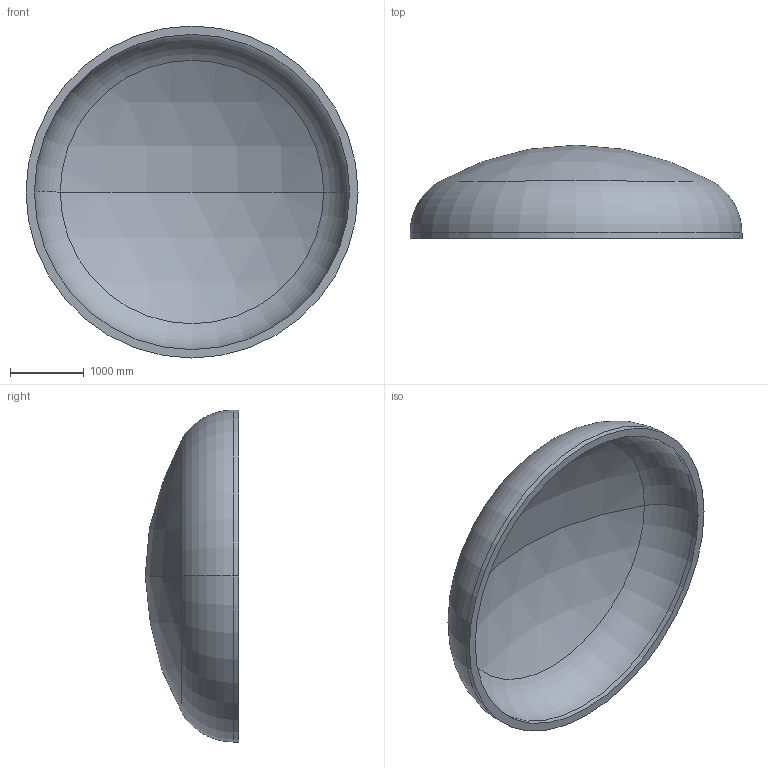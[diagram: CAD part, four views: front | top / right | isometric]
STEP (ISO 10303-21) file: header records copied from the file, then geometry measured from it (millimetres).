
FILE_DESCRIPTION (( 'STEP AP203' ), '1' );
FILE_NAME ('DIN 28013 Korbbogenform_-_Boden DIN 28013 - 4500 x 75 - I - s=114.step', '2016-07-01T23:56:45', ( '' ), ( '' ), 'SwSTEP 2.0', 'SolidWorks 2013', '' );
FILE_SCHEMA (( 'CONFIG_CONTROL_DESIGN' ));
Length unit declared in the file: millimetre
Products named in the file (1): DIN 28013 Korbbogenform_-_Boden DIN 28013 - 4500 x 75 - I - s=114
Bounding box: 4500 x 1266.59 x 4500 mm (x, y, z)
Volume: 2548270767.2 mm3; surface area: 46304516.6 mm2
Topology: 1 solids, 1 shells, 13 faces, 24 edges, 14 vertices
Faces by surface type: torus 4, cylinder 4, sphere 4, plane 1
Entity records: 407 total; most frequent: DIRECTION 72, CARTESIAN_POINT 52, ORIENTED_EDGE 48, AXIS2_PLACEMENT_3D 34, EDGE_CURVE 24, CIRCLE 20, VERTEX_POINT 14, EDGE_LOOP 14
